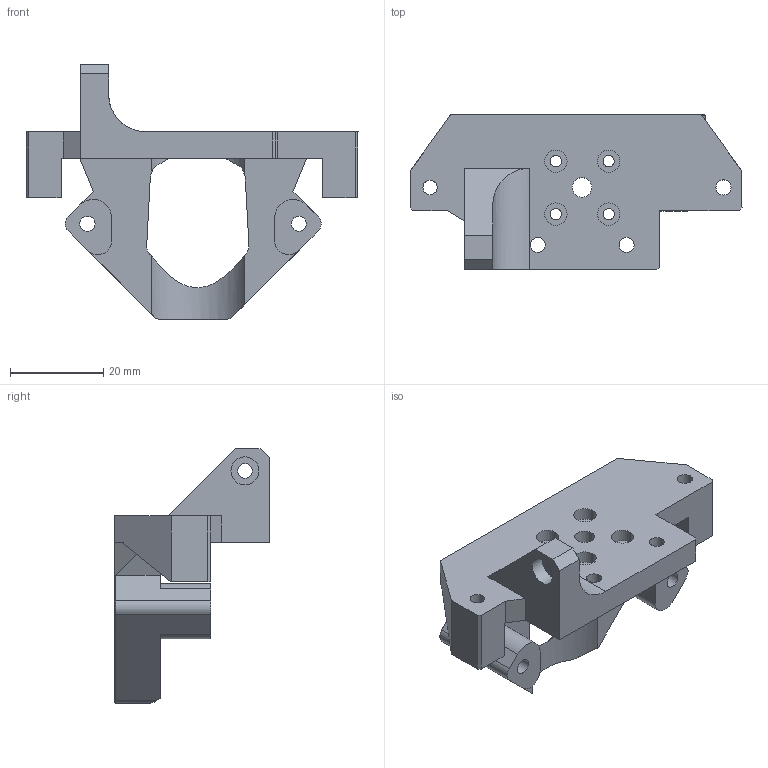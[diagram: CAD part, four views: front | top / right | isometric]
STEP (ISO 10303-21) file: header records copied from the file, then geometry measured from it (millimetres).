
FILE_DESCRIPTION(/* description */ (''),/* implementation_level */ '2;1');
FILE_NAME(/* name */ 'C:/Users/Martin/Documents/icarus-2.1/icarus-2-current-step-files/2-mounts/mount-lgx-lite-rapido-hf-2.1.step',/* time_stamp */ '2022-08-22T19:10:35+02:00',/* author */ (''),/* organization */ (''),/* preprocessor_version */ 'ST-DEVELOPER v19',/* originating_system */ 'Autodesk Translation Framework v11.7.0.108',/* authorisation */ '');
FILE_SCHEMA (('AUTOMOTIVE_DESIGN { 1 0 10303 214 3 1 1 }'));
Length unit declared in the file: millimetre
Products named in the file (1): mount-rapido
Bounding box: 71.07 x 33.12 x 54.58 mm (x, y, z)
Volume: 19967.6 mm3; surface area: 10645.5 mm2
Topology: 1 solids, 1 shells, 118 faces, 315 edges, 205 vertices
Faces by surface type: plane 53, cylinder 36, bspline 21, cone 8
Full cylindrical faces by diameter (mm): 2.4 x4, 3.1 x1, 3.15 x1, 3.2 x2, 3.25 x5, 4.2 x1, 4.8 x2, 6 x3
Entity records: 4404 total; most frequent: CARTESIAN_POINT 1465, ORIENTED_EDGE 630, DIRECTION 538, EDGE_CURVE 315, VERTEX_POINT 205, LINE 182, VECTOR 182, AXIS2_PLACEMENT_3D 178
